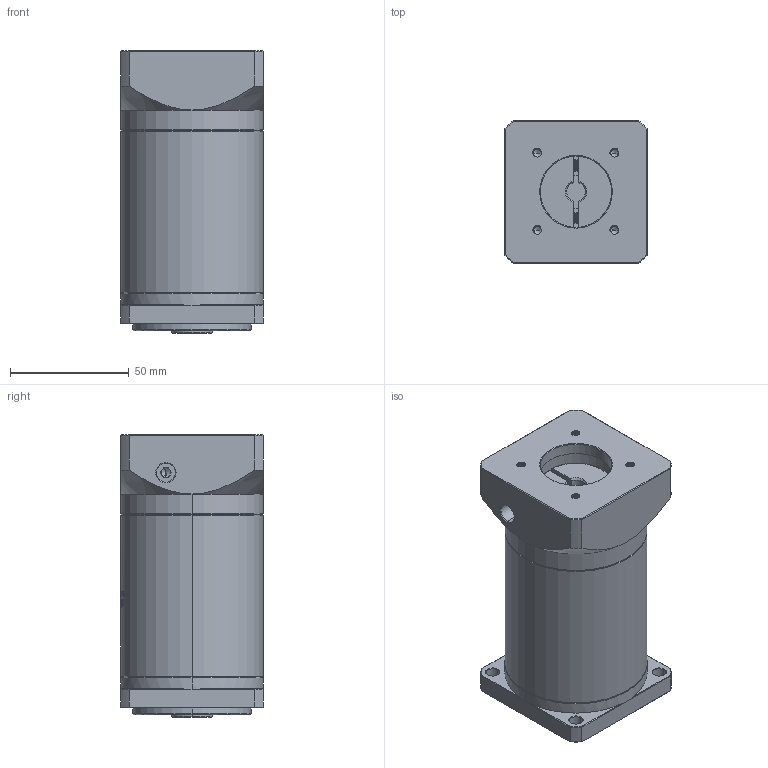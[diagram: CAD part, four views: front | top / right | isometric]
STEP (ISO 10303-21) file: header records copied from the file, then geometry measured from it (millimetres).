
FILE_DESCRIPTION (( 'STEP AP214' ), '1' );
FILE_NAME ('ZF60-K10-L3-8-30-46-M4.STEP', '2022-04-17T11:27:36', ( '' ), ( 'Microsoft' ), 'SwSTEP 2.0', 'SolidWorks 2016', '' );
FILE_SCHEMA (( 'AUTOMOTIVE_DESIGN' ));
Length unit declared in the file: millimetre
Products named in the file (1): ZF60-K10-L3-8-30-46-M4
Bounding box: 60 x 60 x 119 mm (x, y, z)
Volume: 320568.1 mm3; surface area: 50029.1 mm2
Topology: 6 solids, 6 shells, 1552 faces, 4200 edges, 2723 vertices
Faces by surface type: plane 737, bspline 292, cylinder 284, cone 221, torus 18
Entity records: 82563 total; most frequent: CARTESIAN_POINT 29827, ORIENTED_EDGE 8376, DIRECTION 6188, EDGE_CURVE 4188, VERTEX_POINT 2723, VECTOR 2152, LINE 2152, AXIS2_PLACEMENT_3D 2018
